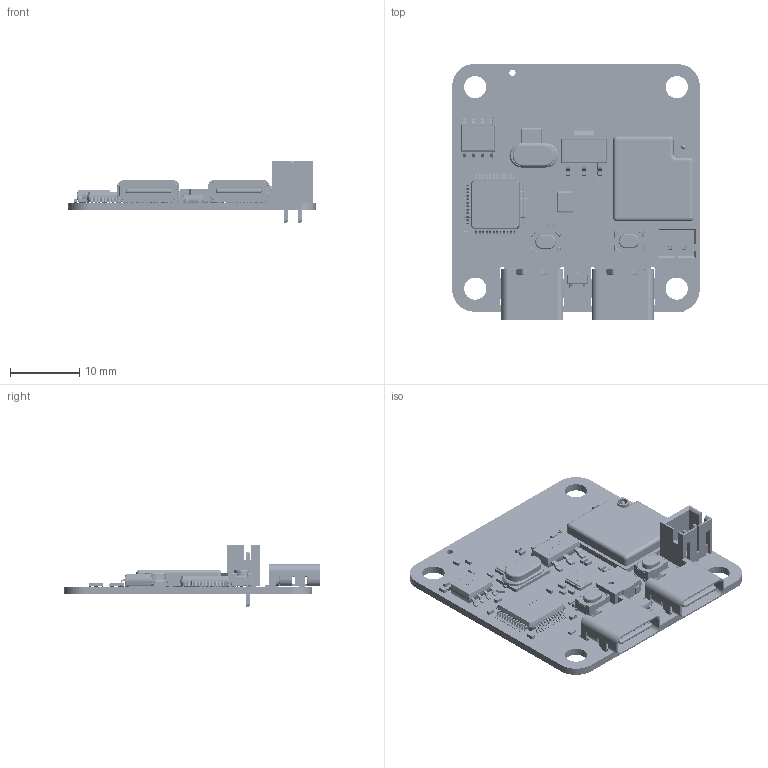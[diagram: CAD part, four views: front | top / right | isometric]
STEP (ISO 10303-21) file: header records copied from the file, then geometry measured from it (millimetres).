
FILE_DESCRIPTION(('Open CASCADE Model'),'2;1');
FILE_NAME('Open CASCADE Shape Model','2024-10-18T14:31:13',('Author'),( 'Open CASCADE'),'Open CASCADE STEP processor 7.5','Open CASCADE 7.5' ,'Unknown');
FILE_SCHEMA(('AUTOMOTIVE_DESIGN { 1 0 10303 214 1 1 1 1 }'));
Length unit declared in the file: millimetre
Products named in the file (144): PCB; Board; Open CASCADE STEP translator 7.5 2.1.1; 5V; PH2.0-LI-2P; Designator354; PH2.0-LI-ӽ½ğ8; R16; 0402_R; 6637175584; Extruded; 6637175344; Q1; SOT23-3; Designator141; SOT23-3_ӽ½À; 6637175184; BUZZER1; BUZ-SMD_3P-L5.2-W5.2-H2.0-P3.50; R15; 6637173664; 6637173424; X1; HC-49S_L7.0-W4.0; R14; 6637174064; 6637173824; C21; 0402_C; 6637172944; C20; 6637176064; R13; 6637172544; 6637172304; LED1; 6637172144; 6637171904; 6637171664; 6637171504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
Assembly tree (473 placements, depth 6):
  PCB
    Board
      Open CASCADE STEP translator 7.5 2.1.1
    5V
      PH2.0-LI-2P
        Designator354
          PH2.0-LI-2P
            PH2.0-LI-ӽ½ğ8  x2
            PH2.0-LI-2P
    R16
      0402_R
      6637175584
        Extruded
      6637175344
        Extruded
    Q1
      SOT23-3
        Designator141
          SOT23-3
            SOT23-3
            SOT23-3_ӽ½À  x3
      6637175184  x3
        Extruded
    BUZZER1
      BUZ-SMD_3P-L5.2-W5.2-H2.0-P3.50
    R15
      0402_R
      6637173664
        Extruded
      6637173424
        Extruded
    X1
      HC-49S_L7.0-W4.0
    R14
      0402_R
      6637174064
        Extruded
      6637173824
        Extruded
    C21
      0402_C
      6637172944  x2
        Extruded
    C20
      0402_C
      6637176064  x2
        Extruded
    R13
      0402_R
      6637172544
        Extruded
      6637172304
        Extruded
    LED1
      6637172144  x2
        Extruded
      6637171904  x2
        Extruded
      6637171664
        Extruded
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Bounding box: 35.6 x 36.8 x 9 mm (x, y, z)
Volume: 2306.8 mm3; surface area: 5236.7 mm2
Topology: 482 solids, 482 shells, 10666 faces, 25234 edges, 15217 vertices
Faces by surface type: plane 5559, cylinder 2424, bspline 1888, torus 300, extrusion 265, sphere 215, revolution 12, cone 3
Full cylindrical faces by diameter (mm): 0.298 x96, 0.7 x4, 0.812 x2, 0.9 x1, 3.2 x4
Entity records: 181749 total; most frequent: CARTESIAN_POINT 50753, ORIENTED_EDGE 21320, DIRECTION 18086, EDGE_CURVE 10660, VECTOR 7238, LINE 7224, VERTEX_POINT 6752, AXIS2_PLACEMENT_3D 5421
